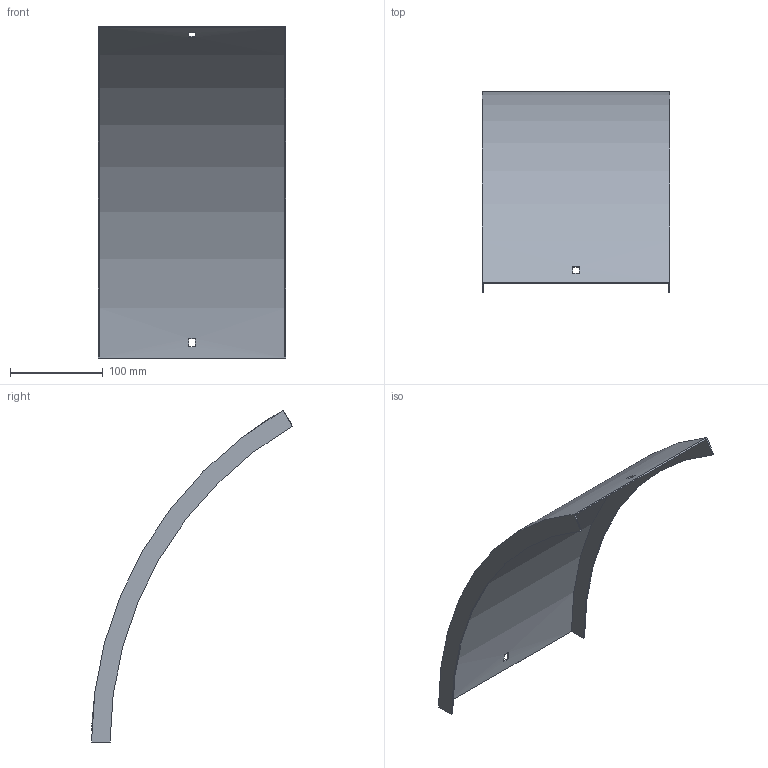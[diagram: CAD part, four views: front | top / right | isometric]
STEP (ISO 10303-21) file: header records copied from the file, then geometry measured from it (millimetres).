
FILE_DESCRIPTION (( 'STEP AP214' ), '1' );
FILE_NAME ('B2_41N3J200.step', '2025-02-21T10:42:08', ( '' ), ( '' ), 'SwSTEP 2.0', 'SolidWorks 2023', '' );
FILE_SCHEMA (( 'AUTOMOTIVE_DESIGN' ));
Length unit declared in the file: millimetre
Products named in the file (1): B2_41N3J200
Bounding box: 203 x 217 x 358.53 mm (x, y, z)
Volume: 155034.7 mm3; surface area: 208766.2 mm2
Topology: 1 solids, 1 shells, 18 faces, 48 edges, 32 vertices
Faces by surface type: plane 14, cylinder 4
Entity records: 599 total; most frequent: DIRECTION 102, CARTESIAN_POINT 99, ORIENTED_EDGE 96, EDGE_CURVE 48, AXIS2_PLACEMENT_3D 35, VERTEX_POINT 32, VECTOR 32, LINE 32
